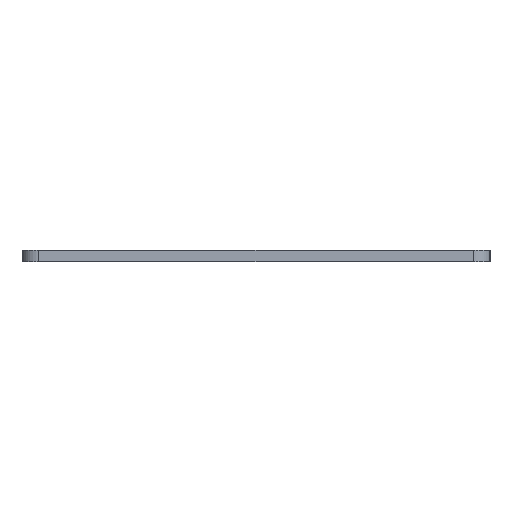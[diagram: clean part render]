
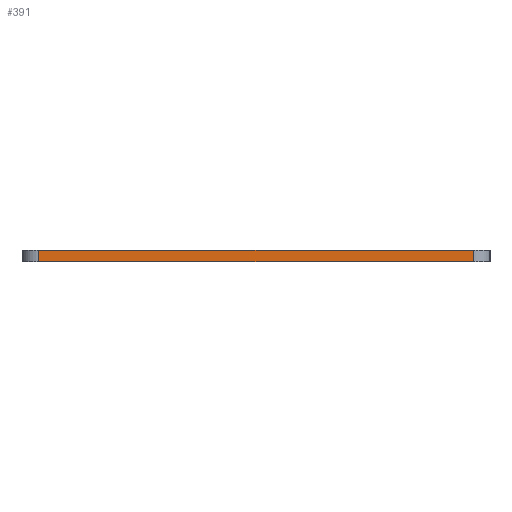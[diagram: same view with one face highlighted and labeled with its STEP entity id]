
A CAD part, left-side view. The second image highlights one B-rep face of the part: STEP entity #391.
In plain terms, the highlighted planar face has unit normal (-1, 0, 0).
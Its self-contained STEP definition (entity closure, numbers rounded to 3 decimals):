
#2 = LINE ( 'NONE', #621, #763 ) ;
#3 = DIRECTION ( 'NONE',  ( 0., 0., 1. ) ) ;
#16 = VERTEX_POINT ( 'NONE', #130 ) ;
#89 = VECTOR ( 'NONE', #617, 1000. ) ;
#102 = EDGE_CURVE ( 'NONE', #16, #616, #362, .T. ) ;
#130 = CARTESIAN_POINT ( 'NONE',  ( -149.5, 39.25, -2. ) ) ;
#139 = CARTESIAN_POINT ( 'NONE',  ( -149.5, -39.25, 0. ) ) ;
#158 = LINE ( 'NONE', #529, #89 ) ;
#168 = EDGE_CURVE ( 'NONE', #616, #767, #423, .T. ) ;
#203 = CARTESIAN_POINT ( 'NONE',  ( -149.5, -39.25, -2. ) ) ;
#231 = PLANE ( 'NONE',  #622 ) ;
#283 = DIRECTION ( 'NONE',  ( -1., 0., 0. ) ) ;
#299 = VERTEX_POINT ( 'NONE', #203 ) ;
#301 = CARTESIAN_POINT ( 'NONE',  ( -149.5, 39.25, -2. ) ) ;
#316 = CARTESIAN_POINT ( 'NONE',  ( -149.5, 39.25, 0. ) ) ;
#334 = CARTESIAN_POINT ( 'NONE',  ( -149.5, 39.25, 0. ) ) ;
#340 = DIRECTION ( 'NONE',  ( 0., 0., 1. ) ) ;
#362 = LINE ( 'NONE', #301, #381 ) ;
#381 = VECTOR ( 'NONE', #340, 1000. ) ;
#385 = EDGE_CURVE ( 'NONE', #16, #299, #158, .T. ) ;
#391 = ADVANCED_FACE ( 'NONE', ( #665 ), #231, .T. ) ;
#401 = ORIENTED_EDGE ( 'NONE', *, *, #168, .F. ) ;
#423 = LINE ( 'NONE', #316, #448 ) ;
#437 = EDGE_CURVE ( 'NONE', #299, #767, #2, .T. ) ;
#448 = VECTOR ( 'NONE', #770, 1000. ) ;
#453 = CARTESIAN_POINT ( 'NONE',  ( -149.5, 39.25, -2. ) ) ;
#529 = CARTESIAN_POINT ( 'NONE',  ( -149.5, 39.25, -2. ) ) ;
#616 = VERTEX_POINT ( 'NONE', #334 ) ;
#617 = DIRECTION ( 'NONE',  ( 0., -1., 0. ) ) ;
#621 = CARTESIAN_POINT ( 'NONE',  ( -149.5, -39.25, -2. ) ) ;
#622 = AXIS2_PLACEMENT_3D ( 'NONE', #453, #283, #729 ) ;
#665 = FACE_OUTER_BOUND ( 'NONE', #706, .T. ) ;
#677 = ORIENTED_EDGE ( 'NONE', *, *, #385, .T. ) ;
#706 = EDGE_LOOP ( 'NONE', ( #401, #785, #677, #714 ) ) ;
#714 = ORIENTED_EDGE ( 'NONE', *, *, #437, .T. ) ;
#729 = DIRECTION ( 'NONE',  ( 0., -1., 0. ) ) ;
#763 = VECTOR ( 'NONE', #3, 1000. ) ;
#767 = VERTEX_POINT ( 'NONE', #139 ) ;
#770 = DIRECTION ( 'NONE',  ( 0., -1., 0. ) ) ;
#785 = ORIENTED_EDGE ( 'NONE', *, *, #102, .F. ) ;
